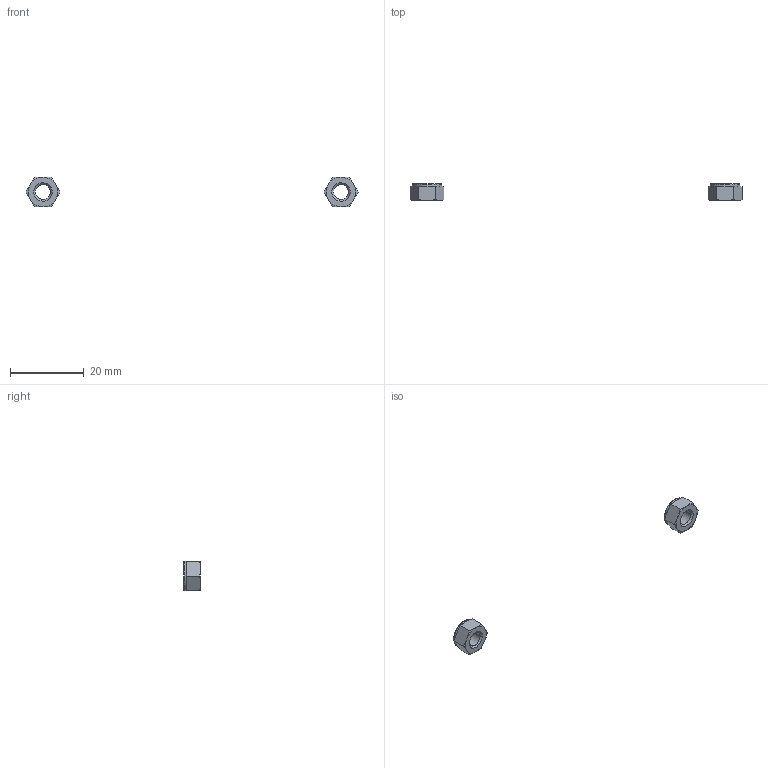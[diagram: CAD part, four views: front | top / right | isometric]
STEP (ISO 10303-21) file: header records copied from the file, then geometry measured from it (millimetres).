
FILE_DESCRIPTION(/* description */ (''),/* implementation_level */ '2;1');
FILE_NAME(/* name */ '7.x-cart#7.6#PACK-UNUT5',/* time_stamp */ '2014-12-01T20:17:39+01:00',/* author */ (''),/* organization */ (''),/* preprocessor_version */ 'ST-DEVELOPER v14',/* originating_system */ '',/* authorisation */ '');
FILE_SCHEMA (('AUTOMOTIVE_DESIGN'));
Length unit declared in the file: millimetre
Products named in the file (2): Document; nut DIN985-like, lock, M5
Assembly tree (2 placements, depth 2):
  Document
    nut DIN985-like, lock, M5  x2
Bounding box: 90.24 x 4.6 x 8 mm (x, y, z)
Volume: 352 mm3; surface area: 543.5 mm2
Topology: 2 solids, 2 shells, 108 faces, 260 edges, 156 vertices
Faces by surface type: bspline 62, plane 46
Entity records: 3582 total; most frequent: CARTESIAN_POINT 1915, ORIENTED_EDGE 260, PCURVE 260, DEFINITIONAL_REPRESENTATION 260, B_SPLINE_CURVE_WITH_KNOTS 249, SURFACE_CURVE 130, EDGE_CURVE 130, VERTEX_POINT 78
